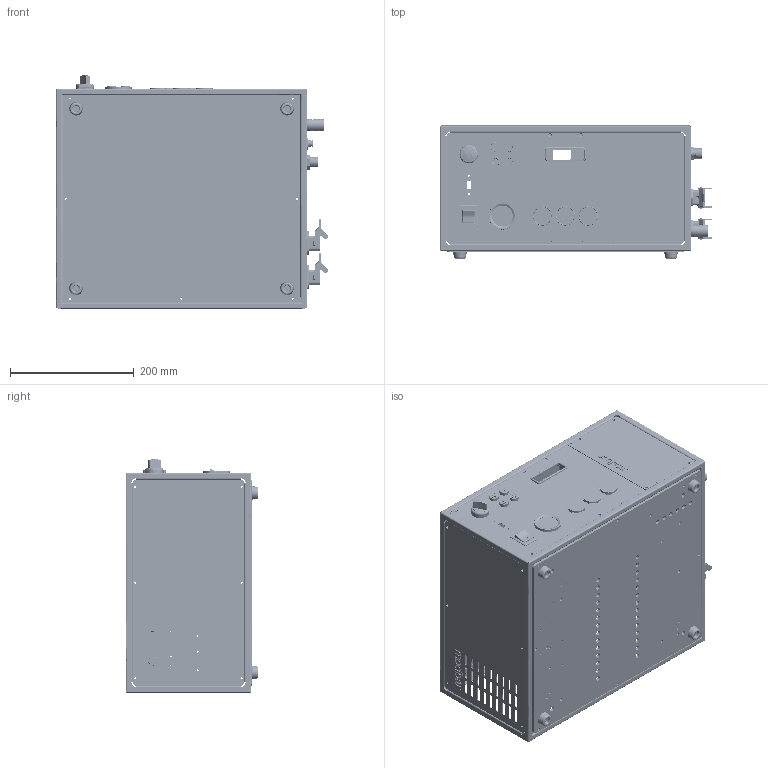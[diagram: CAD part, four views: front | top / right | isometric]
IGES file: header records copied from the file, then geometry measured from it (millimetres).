
Start section: SolidWorks IGES file using analytic representation for surfaces
Global section: file name: C:\Users\vincenzo\LA MARZOCCO SRL\ATC - Documenti\LM SUPPORT PACKAGE\FULL TECHNICAL DOCUMENTATION\3D MODELS DRAWINGS FOR CUSTOMER USE\MODBAR\MODBAR AV\LM0013535_MODULE_MODBAR-AV.IGS; native system: SolidWorks 2021; preprocessor: SolidWorks 2021; author: vincenzo; date: 230302.161418; units: millimetre
Bounding box: 440.18 x 214.64 x 377.55 mm (x, y, z)
Surface area: 1378136.2 mm2 (no closed solid volume)
Topology: 0 solids, 0 shells, 5534 faces, 73976 edges, 73904 vertices
Faces by surface type: bspline 3094, revolution 2440
